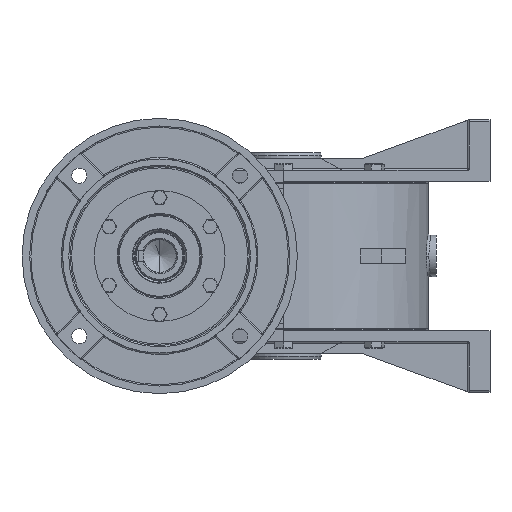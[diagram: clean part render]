
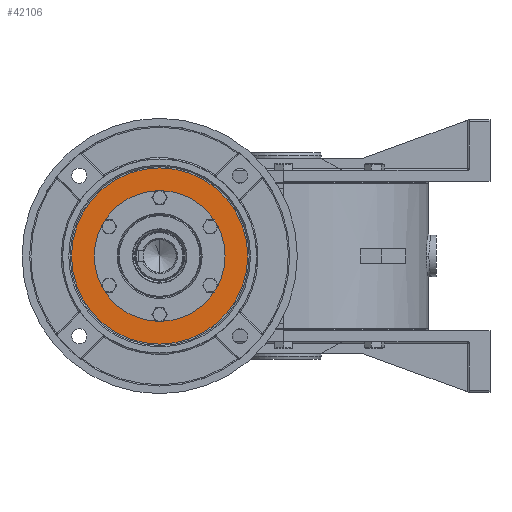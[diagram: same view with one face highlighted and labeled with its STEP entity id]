
A CAD part, left-side view. The second image highlights one B-rep face of the part: STEP entity #42106.
In plain terms, the highlighted planar face has unit normal (-1, 0, 0).
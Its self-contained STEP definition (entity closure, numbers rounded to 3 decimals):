
#5967 = VERTEX_POINT ( 'NONE', #47201 ) ;
#5969 = EDGE_CURVE ( 'NONE', #5970, #5967, #47181, .T. ) ;
#5970 = VERTEX_POINT ( 'NONE', #47443 ) ;
#5995 = EDGE_CURVE ( 'NONE', #6009, #6017, #47477, .T. ) ;
#6009 = VERTEX_POINT ( 'NONE', #47540 ) ;
#6017 = VERTEX_POINT ( 'NONE', #47531 ) ;
#41963 = EDGE_CURVE ( 'NONE', #6017, #6009, #54234, .T. ) ;
#41981 = EDGE_LOOP ( 'NONE', ( #42108, #42109 ) ) ;
#42106 = ADVANCED_FACE ( 'NONE', ( #55316, #55315 ), #55314, .T. ) ;
#42108 = ORIENTED_EDGE ( 'NONE', *, *, #5969, .T. ) ;
#42109 = ORIENTED_EDGE ( 'NONE', *, *, #42111, .T. ) ;
#42111 = EDGE_CURVE ( 'NONE', #5967, #5970, #55303, .T. ) ;
#42191 = EDGE_LOOP ( 'NONE', ( #42193, #42195 ) ) ;
#42193 = ORIENTED_EDGE ( 'NONE', *, *, #41963, .F. ) ;
#42195 = ORIENTED_EDGE ( 'NONE', *, *, #5995, .F. ) ;
#47178 = DIRECTION ( 'NONE',  ( 0., 0., -1. ) ) ;
#47179 = DIRECTION ( 'NONE',  ( 1., 0., 0. ) ) ;
#47180 = AXIS2_PLACEMENT_3D ( 'NONE', #47200, #47179, #47178 ) ;
#47181 = CIRCLE ( 'NONE', #47180, 47.5 ) ;
#47200 = CARTESIAN_POINT ( 'NONE',  ( -120.5, 90., 0. ) ) ;
#47201 = CARTESIAN_POINT ( 'NONE',  ( -120.5, 90., 47.5 ) ) ;
#47443 = CARTESIAN_POINT ( 'NONE',  ( -120.5, 90., -47.5 ) ) ;
#47473 = DIRECTION ( 'NONE',  ( 0., 0., -1. ) ) ;
#47474 = DIRECTION ( 'NONE',  ( 1., 0., 0. ) ) ;
#47475 = CARTESIAN_POINT ( 'NONE',  ( -120.5, 90., 0. ) ) ;
#47476 = AXIS2_PLACEMENT_3D ( 'NONE', #47475, #47474, #47473 ) ;
#47477 = CIRCLE ( 'NONE', #47476, 64. ) ;
#47531 = CARTESIAN_POINT ( 'NONE',  ( -120.5, 90., -64. ) ) ;
#47540 = CARTESIAN_POINT ( 'NONE',  ( -120.5, 90., 64. ) ) ;
#54228 = DIRECTION ( 'NONE',  ( 0., 0., -1. ) ) ;
#54229 = DIRECTION ( 'NONE',  ( 1., 0., 0. ) ) ;
#54230 = CARTESIAN_POINT ( 'NONE',  ( -120.5, 90., 0. ) ) ;
#54231 = AXIS2_PLACEMENT_3D ( 'NONE', #54230, #54229, #54228 ) ;
#54234 = CIRCLE ( 'NONE', #54231, 64. ) ;
#55299 = DIRECTION ( 'NONE',  ( 0., 0., -1. ) ) ;
#55300 = DIRECTION ( 'NONE',  ( 1., 0., 0. ) ) ;
#55301 = CARTESIAN_POINT ( 'NONE',  ( -120.5, 90., 0. ) ) ;
#55302 = AXIS2_PLACEMENT_3D ( 'NONE', #55301, #55300, #55299 ) ;
#55303 = CIRCLE ( 'NONE', #55302, 47.5 ) ;
#55309 = DIRECTION ( 'NONE',  ( 0., 0., 1. ) ) ;
#55310 = DIRECTION ( 'NONE',  ( -1., 0., 0. ) ) ;
#55311 = CARTESIAN_POINT ( 'NONE',  ( -120.5, 90., 55.75 ) ) ;
#55312 = AXIS2_PLACEMENT_3D ( 'NONE', #55311, #55310, #55309 ) ;
#55314 = PLANE ( 'NONE',  #55312 ) ;
#55315 = FACE_OUTER_BOUND ( 'NONE', #42191, .T. ) ;
#55316 = FACE_BOUND ( 'NONE', #41981, .T. ) ;
